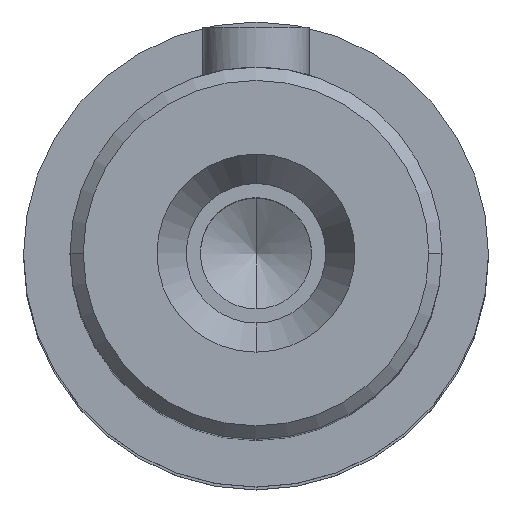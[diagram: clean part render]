
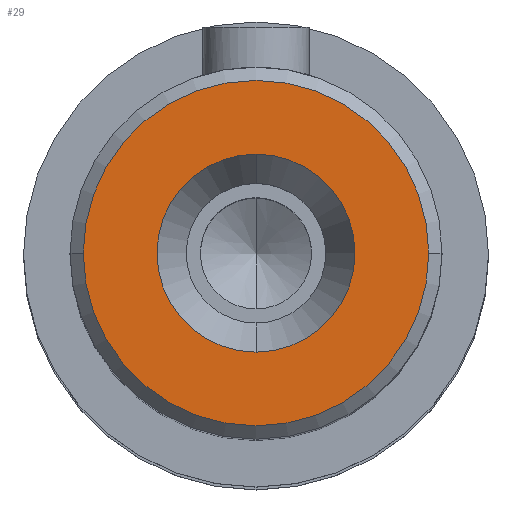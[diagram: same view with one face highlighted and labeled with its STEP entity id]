
A CAD part, top view. The second image highlights one B-rep face of the part: STEP entity #29.
In plain terms, the highlighted planar face has unit normal (0, 0, 1) as drawn and (1, 0, 0) by its records, which use the part's own axes.
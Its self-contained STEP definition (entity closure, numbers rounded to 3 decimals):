
#29=ADVANCED_FACE('',(#68,#55),#470,.T.);
#55=FACE_BOUND('',#106,.T.);
#68=FACE_OUTER_BOUND('',#105,.T.);
#105=EDGE_LOOP('',(#174,#175));
#106=EDGE_LOOP('',(#176,#177));
#174=ORIENTED_EDGE('',*,*,#274,.F.);
#175=ORIENTED_EDGE('',*,*,#277,.F.);
#176=ORIENTED_EDGE('',*,*,#319,.F.);
#177=ORIENTED_EDGE('',*,*,#294,.F.);
#274=EDGE_CURVE('',#432,#435,#329,.T.);
#277=EDGE_CURVE('',#435,#432,#331,.T.);
#294=EDGE_CURVE('',#434,#458,#339,.T.);
#319=EDGE_CURVE('',#458,#434,#353,.T.);
#329=TRIMMED_CURVE($,#363,(#1017),(#1018),.T.,.CARTESIAN.);
#331=TRIMMED_CURVE($,#365,(#1025),(#1026),.T.,.CARTESIAN.);
#339=TRIMMED_CURVE($,#373,(#1067),(#1068),.T.,.CARTESIAN.);
#353=TRIMMED_CURVE($,#387,(#1131),(#1132),.T.,.CARTESIAN.);
#363=CIRCLE('',#703,13.);
#365=CIRCLE('',#705,13.);
#373=CIRCLE('',#713,7.45);
#387=CIRCLE('',#727,7.45);
#432=VERTEX_POINT('',#934);
#434=VERTEX_POINT('',#936);
#435=VERTEX_POINT('',#937);
#458=VERTEX_POINT('',#960);
#470=PLANE('',#678);
#678=AXIS2_PLACEMENT_3D('',#854,#744,$);
#703=AXIS2_PLACEMENT_3D($,#1016,#778,#779);
#705=AXIS2_PLACEMENT_3D($,#1024,#782,#783);
#713=AXIS2_PLACEMENT_3D($,#1066,#798,#799);
#727=AXIS2_PLACEMENT_3D($,#1130,#826,#827);
#744=DIRECTION('',(1.,0.,0.));
#778=DIRECTION('',(-1.,0.,0.));
#779=DIRECTION('',(0.,0.,1.));
#782=DIRECTION('',(-1.,0.,0.));
#783=DIRECTION('',(0.,0.,-1.));
#798=DIRECTION('',(1.,0.,0.));
#799=DIRECTION('',(0.,1.,0.));
#826=DIRECTION('',(1.,0.,0.));
#827=DIRECTION('',(0.,-1.,0.));
#854=CARTESIAN_POINT('',(123.5,-15.66,-15.66));
#934=CARTESIAN_POINT('',(123.5,0.,13.));
#936=CARTESIAN_POINT('',(123.5,7.45,0.));
#937=CARTESIAN_POINT('',(123.5,0.,-13.));
#960=CARTESIAN_POINT('',(123.5,-7.45,0.));
#1016=CARTESIAN_POINT('',(123.5,0.,0.));
#1017=CARTESIAN_POINT('',(123.5,0.,13.));
#1018=CARTESIAN_POINT('',(123.5,0.,-13.));
#1024=CARTESIAN_POINT('',(123.5,0.,0.));
#1025=CARTESIAN_POINT('',(123.5,0.,-13.));
#1026=CARTESIAN_POINT('',(123.5,0.,13.));
#1066=CARTESIAN_POINT('',(123.5,0.,0.));
#1067=CARTESIAN_POINT('',(123.5,7.45,0.));
#1068=CARTESIAN_POINT('',(123.5,-7.45,0.));
#1130=CARTESIAN_POINT('',(123.5,0.,0.));
#1131=CARTESIAN_POINT('',(123.5,-7.45,0.));
#1132=CARTESIAN_POINT('',(123.5,7.45,0.));
